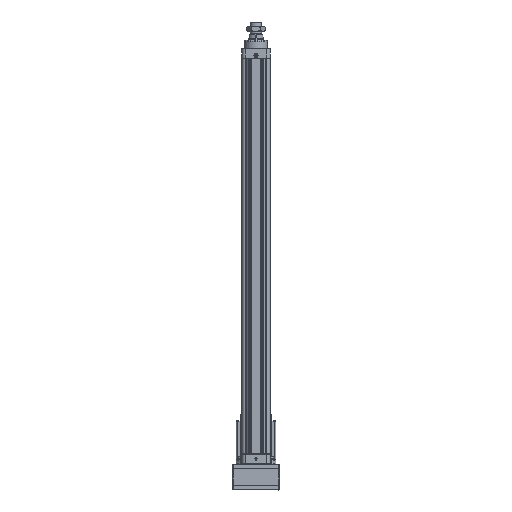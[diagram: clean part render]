
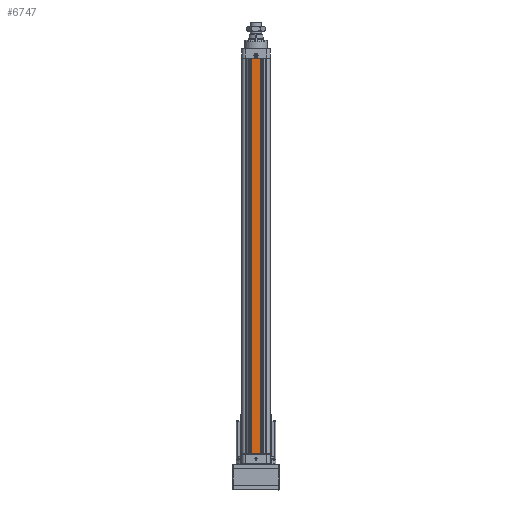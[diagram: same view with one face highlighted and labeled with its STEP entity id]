
A CAD part, top view. The second image highlights one B-rep face of the part: STEP entity #6747.
In plain terms, the highlighted planar face has unit normal (0, 0, 1).
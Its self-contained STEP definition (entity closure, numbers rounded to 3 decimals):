
#3271=DIRECTION('',(1.,0.,0.));
#3272=VECTOR('',#3271,27.8);
#3273=CARTESIAN_POINT('',(-13.9,-644.,46.5));
#3274=LINE('',#3273,#3272);
#3779=DIRECTION('',(1.,0.,0.));
#3780=VECTOR('',#3779,27.8);
#3781=CARTESIAN_POINT('',(-13.9,644.,46.5));
#3782=LINE('',#3781,#3780);
#4285=DIRECTION('',(0.,1.,0.));
#4286=VECTOR('',#4285,1288.);
#4287=CARTESIAN_POINT('',(-13.9,-644.,46.5));
#4288=LINE('',#4287,#4286);
#4289=DIRECTION('',(0.,1.,0.));
#4290=VECTOR('',#4289,1288.);
#4291=CARTESIAN_POINT('',(13.9,-644.,46.5));
#4292=LINE('',#4291,#4290);
#5453=CARTESIAN_POINT('',(-13.9,-644.,46.5));
#5455=VERTEX_POINT('',#5453);
#5469=CARTESIAN_POINT('',(13.9,-644.,46.5));
#5470=VERTEX_POINT('',#5469);
#5485=CARTESIAN_POINT('',(-13.9,644.,46.5));
#5487=VERTEX_POINT('',#5485);
#5501=CARTESIAN_POINT('',(13.9,644.,46.5));
#5502=VERTEX_POINT('',#5501);
#6734=CARTESIAN_POINT('',(-46.5,-644.,46.5));
#6735=DIRECTION('',(0.,0.,1.));
#6736=DIRECTION('',(1.,0.,0.));
#6737=AXIS2_PLACEMENT_3D('',#6734,#6735,#6736);
#6738=PLANE('',#6737);
#6740=ORIENTED_EDGE('',*,*,#6739,.T.);
#6741=ORIENTED_EDGE('',*,*,#6309,.T.);
#6743=ORIENTED_EDGE('',*,*,#6742,.F.);
#6744=ORIENTED_EDGE('',*,*,#5916,.F.);
#6745=EDGE_LOOP('',(#6740,#6741,#6743,#6744));
#6746=FACE_OUTER_BOUND('',#6745,.F.);
#6747=ADVANCED_FACE('',(#6746),#6738,.T.);
#5916=EDGE_CURVE('',#5455,#5470,#3274,.T.);
#6309=EDGE_CURVE('',#5487,#5502,#3782,.T.);
#6739=EDGE_CURVE('',#5455,#5487,#4288,.T.);
#6742=EDGE_CURVE('',#5470,#5502,#4292,.T.);
